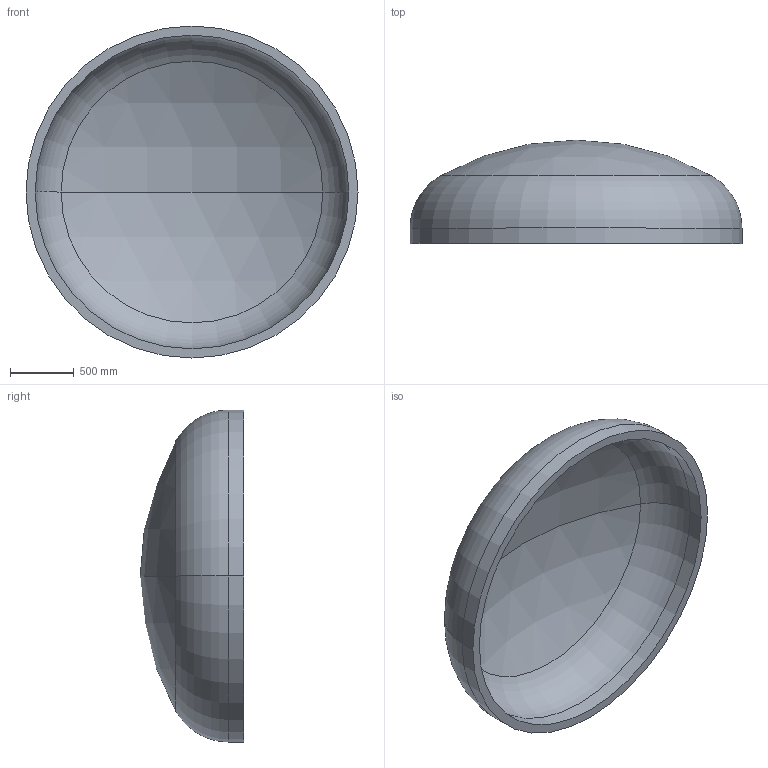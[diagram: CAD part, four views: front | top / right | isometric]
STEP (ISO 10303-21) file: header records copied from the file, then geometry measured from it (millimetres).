
FILE_DESCRIPTION (( 'STEP AP203' ), '1' );
FILE_NAME ('DIN 28013 Korbbogenform_-_Boden DIN 28013 - 2600 x 120 - I - s=72.step', '2016-07-01T16:22:45', ( '' ), ( '' ), 'SwSTEP 2.0', 'SolidWorks 2013', '' );
FILE_SCHEMA (( 'CONFIG_CONTROL_DESIGN' ));
Length unit declared in the file: millimetre
Products named in the file (1): DIN 28013 Korbbogenform_-_Boden DIN 28013 - 2600 x 120 - I - s=72
Bounding box: 2600 x 810.21 x 2600 mm (x, y, z)
Volume: 579107599.8 mm3; surface area: 16668994.6 mm2
Topology: 1 solids, 1 shells, 13 faces, 24 edges, 14 vertices
Faces by surface type: torus 4, cylinder 4, sphere 4, plane 1
Entity records: 407 total; most frequent: DIRECTION 72, CARTESIAN_POINT 52, ORIENTED_EDGE 48, AXIS2_PLACEMENT_3D 34, EDGE_CURVE 24, CIRCLE 20, EDGE_LOOP 14, VERTEX_POINT 14
